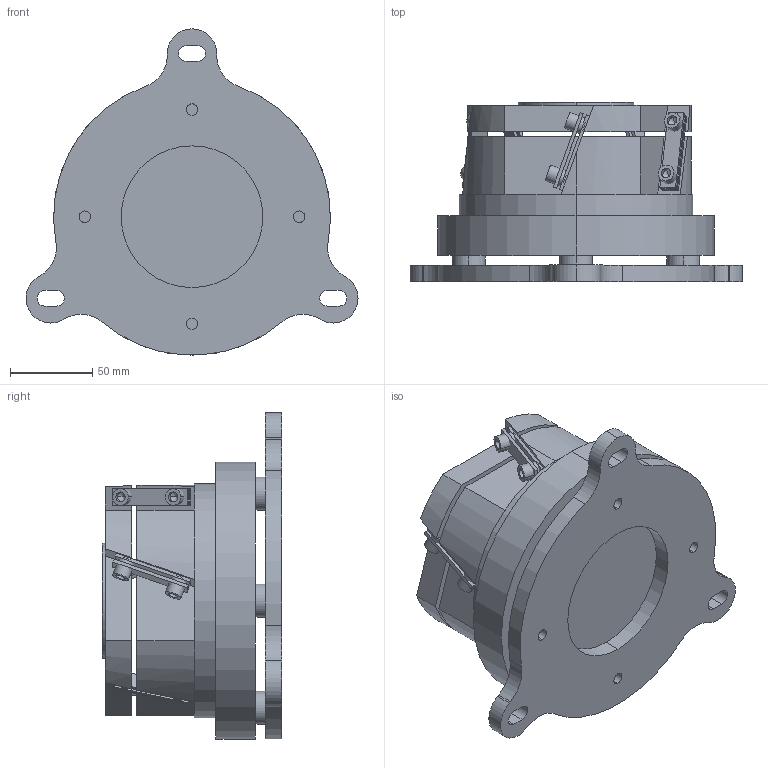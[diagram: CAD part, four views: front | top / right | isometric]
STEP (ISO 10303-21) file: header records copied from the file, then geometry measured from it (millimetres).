
FILE_DESCRIPTION (( 'STEP AP214' ), '1' );
FILE_NAME ('JMG 140.STEP', '2025-07-26T02:43:09', ( '' ), ( '' ), 'SwSTEP 2.0', 'SolidWorks 2022', '' );
FILE_SCHEMA (( 'AUTOMOTIVE_DESIGN' ));
Length unit declared in the file: millimetre
Products named in the file (1): JMG 140
Bounding box: 201.47 x 109 x 198 mm (x, y, z)
Volume: 1631971.9 mm3; surface area: 212550 mm2
Topology: 28 solids, 28 shells, 256 faces, 570 edges, 362 vertices
Faces by surface type: plane 130, cylinder 102, cone 24
Entity records: 7312 total; most frequent: DIRECTION 1260, CARTESIAN_POINT 1202, ORIENTED_EDGE 1100, EDGE_CURVE 550, AXIS2_PLACEMENT_3D 464, VERTEX_POINT 362, VECTOR 332, LINE 332
